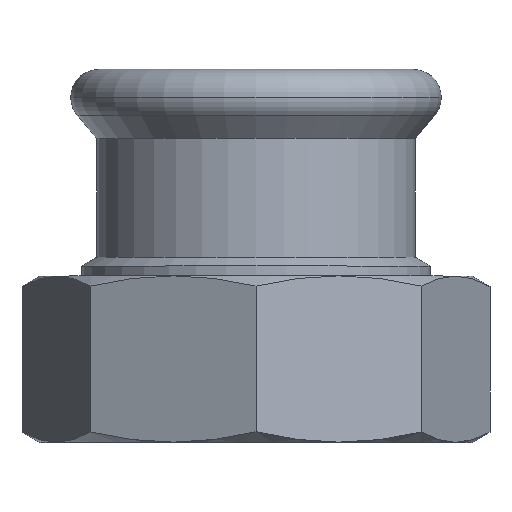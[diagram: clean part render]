
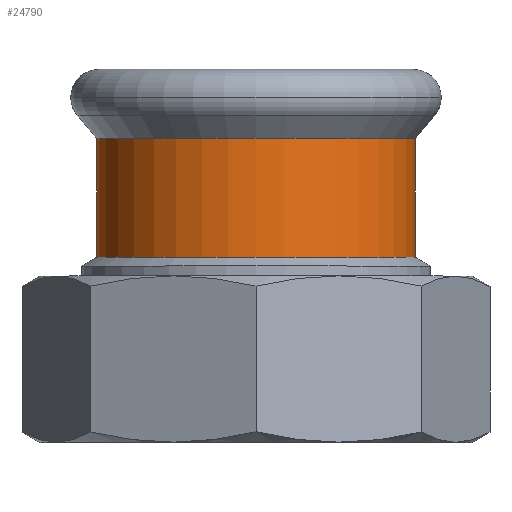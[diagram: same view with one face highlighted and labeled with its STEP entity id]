
A CAD part, top view. The second image highlights one B-rep face of the part: STEP entity #24790.
In plain terms, the highlighted cylindrical face has radius 19.15 mm (diameter 38.3 mm), a partial arc.
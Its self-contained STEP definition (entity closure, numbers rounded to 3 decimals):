
#4690=CARTESIAN_POINT('',(190.738,40.015,
0.));
#4700=VERTEX_POINT('',#4690);
#4880=CARTESIAN_POINT('',(152.438,40.015,0.));
#4890=VERTEX_POINT('',#4880);
#4920=CARTESIAN_POINT('',(171.588,40.015,0.));
#4930=DIRECTION('',(0.,-1.,0.));
#4940=DIRECTION('',(-1.,0.,0.));
#4950=AXIS2_PLACEMENT_3D('',#4920,#4930,#4940);
#4960=CIRCLE('',#4950,19.15);
#4970=EDGE_CURVE('',#4700,#4890,#4960,.T.);
#24240=CARTESIAN_POINT('',(190.738,54.288,0.));
#24250=VERTEX_POINT('',#24240);
#24430=CARTESIAN_POINT('',(152.438,54.288,
0.));
#24440=VERTEX_POINT('',#24430);
#24470=CARTESIAN_POINT('',(171.588,54.288,0.));
#24480=DIRECTION('',(0.,1.,0.));
#24490=DIRECTION('',(-1.,0.,0.));
#24500=AXIS2_PLACEMENT_3D('',#24470,#24480,#24490);
#24510=CIRCLE('',#24500,19.15);
#24570=CARTESIAN_POINT('',(171.588,44.881,0.));
#24580=DIRECTION('',(0.,-1.,0.));
#24590=DIRECTION('',(-1.,0.,0.));
#24600=AXIS2_PLACEMENT_3D('',#24570,#24580,#24590);
#24610=CYLINDRICAL_SURFACE('',#24600,19.15);
#24620=CARTESIAN_POINT('',(152.438,44.881,0.));
#24630=DIRECTION('',(0.,-1.,0.));
#24640=VECTOR('',#24630,1.);
#24650=LINE('',#24620,#24640);
#24660=EDGE_CURVE('',#24440,#4890,#24650,.T.);
#24670=ORIENTED_EDGE('',*,*,#24660,.T.);
#24680=EDGE_CURVE('',#24440,#24250,#24510,.T.);
#24690=ORIENTED_EDGE('',*,*,#24680,.F.);
#24700=CARTESIAN_POINT('',(190.738,44.881,
0.));
#24710=DIRECTION('',(0.,-1.,0.));
#24720=VECTOR('',#24710,1.);
#24730=LINE('',#24700,#24720);
#24740=EDGE_CURVE('',#24250,#4700,#24730,.T.);
#24750=ORIENTED_EDGE('',*,*,#24740,.F.);
#24760=ORIENTED_EDGE('',*,*,#4970,.F.);
#24770=EDGE_LOOP('',(#24760,#24750,#24690,#24670));
#24780=FACE_OUTER_BOUND('',#24770,.T.);
#24790=ADVANCED_FACE('',(#24780),#24610,.T.);
